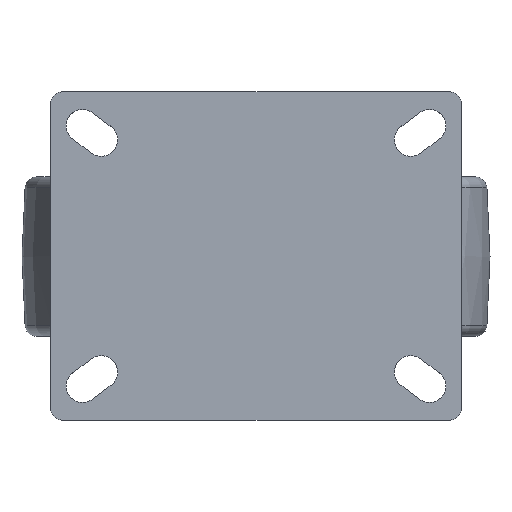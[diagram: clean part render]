
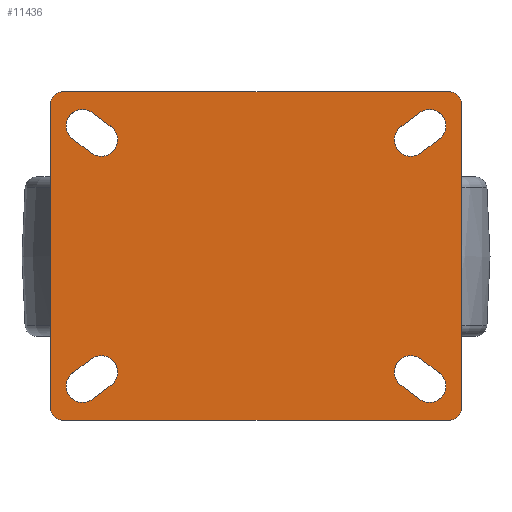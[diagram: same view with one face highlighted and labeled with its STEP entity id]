
A CAD part, top view. The second image highlights one B-rep face of the part: STEP entity #11436.
In plain terms, the highlighted planar face has unit normal (0, 0, 1).
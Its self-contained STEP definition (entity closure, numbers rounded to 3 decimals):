
#836=FACE_BOUND('',#2412,.T.);
#837=FACE_BOUND('',#2413,.T.);
#838=FACE_BOUND('',#2414,.T.);
#839=FACE_BOUND('',#2415,.T.);
#1127=PLANE('',#12036);
#1730=FACE_OUTER_BOUND('',#2411,.T.);
#2411=EDGE_LOOP('',(#10591,#10592,#10593,#10594,#10595,#10596,#10597,#10598));
#2412=EDGE_LOOP('',(#10599,#10600,#10601,#10602));
#2413=EDGE_LOOP('',(#10603,#10604,#10605,#10606));
#2414=EDGE_LOOP('',(#10607,#10608,#10609,#10610));
#2415=EDGE_LOOP('',(#10611,#10612,#10613,#10614));
#2622=CIRCLE('',#12002,7.);
#2623=CIRCLE('',#12005,7.);
#2624=CIRCLE('',#12008,7.);
#2625=CIRCLE('',#12011,7.);
#2626=CIRCLE('',#12014,7.);
#2627=CIRCLE('',#12017,7.);
#2628=CIRCLE('',#12020,7.);
#2629=CIRCLE('',#12023,7.);
#2630=CIRCLE('',#12025,5.);
#2631=CIRCLE('',#12028,5.);
#2632=CIRCLE('',#12031,5.);
#2633=CIRCLE('',#12034,5.);
#3572=LINE('',#19611,#4556);
#3575=LINE('',#19619,#4559);
#3578=LINE('',#19627,#4562);
#3581=LINE('',#19635,#4565);
#3584=LINE('',#19643,#4568);
#3587=LINE('',#19651,#4571);
#3590=LINE('',#19659,#4574);
#3593=LINE('',#19667,#4577);
#3597=LINE('',#19679,#4581);
#3600=LINE('',#19687,#4584);
#3603=LINE('',#19695,#4587);
#3606=LINE('',#19702,#4590);
#4556=VECTOR('',#14027,10.);
#4559=VECTOR('',#14036,10.);
#4562=VECTOR('',#14045,10.);
#4565=VECTOR('',#14054,10.);
#4568=VECTOR('',#14063,10.);
#4571=VECTOR('',#14072,10.);
#4574=VECTOR('',#14081,10.);
#4577=VECTOR('',#14090,10.);
#4581=VECTOR('',#14104,10.);
#4584=VECTOR('',#14113,10.);
#4587=VECTOR('',#14122,10.);
#4590=VECTOR('',#14131,10.);
#5675=VERTEX_POINT('',#19608);
#5676=VERTEX_POINT('',#19610);
#5677=VERTEX_POINT('',#19614);
#5678=VERTEX_POINT('',#19618);
#5679=VERTEX_POINT('',#19624);
#5680=VERTEX_POINT('',#19626);
#5681=VERTEX_POINT('',#19630);
#5682=VERTEX_POINT('',#19634);
#5683=VERTEX_POINT('',#19640);
#5684=VERTEX_POINT('',#19642);
#5685=VERTEX_POINT('',#19646);
#5686=VERTEX_POINT('',#19650);
#5687=VERTEX_POINT('',#19656);
#5688=VERTEX_POINT('',#19658);
#5689=VERTEX_POINT('',#19662);
#5690=VERTEX_POINT('',#19666);
#5691=VERTEX_POINT('',#19672);
#5692=VERTEX_POINT('',#19674);
#5693=VERTEX_POINT('',#19678);
#5694=VERTEX_POINT('',#19682);
#5695=VERTEX_POINT('',#19686);
#5696=VERTEX_POINT('',#19690);
#5697=VERTEX_POINT('',#19694);
#5698=VERTEX_POINT('',#19698);
#7302=EDGE_CURVE('',#5676,#5675,#3572,.T.);
#7304=EDGE_CURVE('',#5677,#5676,#2622,.T.);
#7306=EDGE_CURVE('',#5678,#5677,#3575,.T.);
#7308=EDGE_CURVE('',#5675,#5678,#2623,.T.);
#7310=EDGE_CURVE('',#5680,#5679,#3578,.T.);
#7312=EDGE_CURVE('',#5681,#5680,#2624,.T.);
#7314=EDGE_CURVE('',#5682,#5681,#3581,.T.);
#7316=EDGE_CURVE('',#5679,#5682,#2625,.T.);
#7318=EDGE_CURVE('',#5684,#5683,#3584,.T.);
#7320=EDGE_CURVE('',#5685,#5684,#2626,.T.);
#7322=EDGE_CURVE('',#5686,#5685,#3587,.T.);
#7324=EDGE_CURVE('',#5683,#5686,#2627,.T.);
#7326=EDGE_CURVE('',#5688,#5687,#3590,.T.);
#7328=EDGE_CURVE('',#5689,#5688,#2628,.T.);
#7330=EDGE_CURVE('',#5690,#5689,#3593,.T.);
#7332=EDGE_CURVE('',#5687,#5690,#2629,.T.);
#7334=EDGE_CURVE('',#5692,#5691,#2630,.T.);
#7336=EDGE_CURVE('',#5693,#5692,#3597,.T.);
#7338=EDGE_CURVE('',#5694,#5693,#2631,.T.);
#7340=EDGE_CURVE('',#5695,#5694,#3600,.T.);
#7342=EDGE_CURVE('',#5696,#5695,#2632,.T.);
#7344=EDGE_CURVE('',#5697,#5696,#3603,.T.);
#7346=EDGE_CURVE('',#5698,#5697,#2633,.T.);
#7348=EDGE_CURVE('',#5691,#5698,#3606,.T.);
#10591=ORIENTED_EDGE('',*,*,#7348,.T.);
#10592=ORIENTED_EDGE('',*,*,#7346,.T.);
#10593=ORIENTED_EDGE('',*,*,#7344,.T.);
#10594=ORIENTED_EDGE('',*,*,#7342,.T.);
#10595=ORIENTED_EDGE('',*,*,#7340,.T.);
#10596=ORIENTED_EDGE('',*,*,#7338,.T.);
#10597=ORIENTED_EDGE('',*,*,#7336,.T.);
#10598=ORIENTED_EDGE('',*,*,#7334,.T.);
#10599=ORIENTED_EDGE('',*,*,#7332,.T.);
#10600=ORIENTED_EDGE('',*,*,#7330,.T.);
#10601=ORIENTED_EDGE('',*,*,#7328,.T.);
#10602=ORIENTED_EDGE('',*,*,#7326,.T.);
#10603=ORIENTED_EDGE('',*,*,#7324,.T.);
#10604=ORIENTED_EDGE('',*,*,#7322,.T.);
#10605=ORIENTED_EDGE('',*,*,#7320,.T.);
#10606=ORIENTED_EDGE('',*,*,#7318,.T.);
#10607=ORIENTED_EDGE('',*,*,#7316,.T.);
#10608=ORIENTED_EDGE('',*,*,#7314,.T.);
#10609=ORIENTED_EDGE('',*,*,#7312,.T.);
#10610=ORIENTED_EDGE('',*,*,#7310,.T.);
#10611=ORIENTED_EDGE('',*,*,#7308,.T.);
#10612=ORIENTED_EDGE('',*,*,#7306,.T.);
#10613=ORIENTED_EDGE('',*,*,#7304,.T.);
#10614=ORIENTED_EDGE('',*,*,#7302,.T.);
#11436=ADVANCED_FACE('',(#1730,#836,#837,#838,#839),#1127,.T.);
#12002=AXIS2_PLACEMENT_3D('',#19615,#14031,#14032);
#12005=AXIS2_PLACEMENT_3D('',#19622,#14040,#14041);
#12008=AXIS2_PLACEMENT_3D('',#19631,#14049,#14050);
#12011=AXIS2_PLACEMENT_3D('',#19638,#14058,#14059);
#12014=AXIS2_PLACEMENT_3D('',#19647,#14067,#14068);
#12017=AXIS2_PLACEMENT_3D('',#19654,#14076,#14077);
#12020=AXIS2_PLACEMENT_3D('',#19663,#14085,#14086);
#12023=AXIS2_PLACEMENT_3D('',#19670,#14094,#14095);
#12025=AXIS2_PLACEMENT_3D('',#19675,#14099,#14100);
#12028=AXIS2_PLACEMENT_3D('',#19683,#14108,#14109);
#12031=AXIS2_PLACEMENT_3D('',#19691,#14117,#14118);
#12034=AXIS2_PLACEMENT_3D('',#19699,#14126,#14127);
#12036=AXIS2_PLACEMENT_3D('',#19703,#14132,#14133);
#14027=DIRECTION('',(0.8,-0.6,0.));
#14031=DIRECTION('center_axis',(0.,0.,-1.));
#14032=DIRECTION('ref_axis',(-0.6,-0.8,0.));
#14036=DIRECTION('',(-0.8,0.6,0.));
#14040=DIRECTION('center_axis',(0.,0.,-1.));
#14041=DIRECTION('ref_axis',(0.6,0.8,0.));
#14045=DIRECTION('',(-0.8,-0.6,0.));
#14049=DIRECTION('center_axis',(0.,0.,-1.));
#14050=DIRECTION('ref_axis',(-0.6,0.8,0.));
#14054=DIRECTION('',(0.8,0.6,0.));
#14058=DIRECTION('center_axis',(0.,0.,-1.));
#14059=DIRECTION('ref_axis',(0.6,-0.8,0.));
#14063=DIRECTION('',(-0.8,0.6,0.));
#14067=DIRECTION('center_axis',(0.,0.,-1.));
#14068=DIRECTION('ref_axis',(0.6,0.8,0.));
#14072=DIRECTION('',(0.8,-0.6,0.));
#14076=DIRECTION('center_axis',(0.,0.,-1.));
#14077=DIRECTION('ref_axis',(-0.6,-0.8,0.));
#14081=DIRECTION('',(-0.8,-0.6,0.));
#14085=DIRECTION('center_axis',(0.,0.,-1.));
#14086=DIRECTION('ref_axis',(-0.6,0.8,0.));
#14090=DIRECTION('',(0.8,0.6,0.));
#14094=DIRECTION('center_axis',(0.,0.,-1.));
#14095=DIRECTION('ref_axis',(0.6,-0.8,0.));
#14099=DIRECTION('center_axis',(0.,0.,1.));
#14100=DIRECTION('ref_axis',(-1.,0.,0.));
#14104=DIRECTION('',(0.,-1.,0.));
#14108=DIRECTION('center_axis',(0.,0.,1.));
#14109=DIRECTION('ref_axis',(0.,1.,0.));
#14113=DIRECTION('',(-1.,0.,0.));
#14117=DIRECTION('center_axis',(0.,0.,1.));
#14118=DIRECTION('ref_axis',(1.,0.,0.));
#14122=DIRECTION('',(0.,1.,0.));
#14126=DIRECTION('center_axis',(0.,0.,1.));
#14127=DIRECTION('ref_axis',(0.,-1.,0.));
#14131=DIRECTION('',(1.,0.,0.));
#14132=DIRECTION('center_axis',(0.,0.,1.));
#14133=DIRECTION('ref_axis',(1.,0.,0.));
#19608=CARTESIAN_POINT('',(78.2,-49.9,10.));
#19610=CARTESIAN_POINT('',(70.2,-43.9,10.));
#19611=CARTESIAN_POINT('',(70.2,-43.9,10.));
#19614=CARTESIAN_POINT('',(61.8,-55.1,10.));
#19615=CARTESIAN_POINT('Origin',(66.,-49.5,10.));
#19618=CARTESIAN_POINT('',(69.8,-61.1,10.));
#19619=CARTESIAN_POINT('',(69.8,-61.1,10.));
#19622=CARTESIAN_POINT('Origin',(74.,-55.5,10.));
#19624=CARTESIAN_POINT('',(70.2,43.9,10.));
#19626=CARTESIAN_POINT('',(78.2,49.9,10.));
#19627=CARTESIAN_POINT('',(78.2,49.9,10.));
#19630=CARTESIAN_POINT('',(69.8,61.1,10.));
#19631=CARTESIAN_POINT('Origin',(74.,55.5,10.));
#19634=CARTESIAN_POINT('',(61.8,55.1,10.));
#19635=CARTESIAN_POINT('',(61.8,55.1,10.));
#19638=CARTESIAN_POINT('Origin',(66.,49.5,10.));
#19640=CARTESIAN_POINT('',(-78.2,49.9,10.));
#19642=CARTESIAN_POINT('',(-70.2,43.9,10.));
#19643=CARTESIAN_POINT('',(-70.2,43.9,10.));
#19646=CARTESIAN_POINT('',(-61.8,55.1,10.));
#19647=CARTESIAN_POINT('Origin',(-66.,49.5,10.));
#19650=CARTESIAN_POINT('',(-69.8,61.1,10.));
#19651=CARTESIAN_POINT('',(-69.8,61.1,10.));
#19654=CARTESIAN_POINT('Origin',(-74.,55.5,10.));
#19656=CARTESIAN_POINT('',(-69.8,-61.1,10.));
#19658=CARTESIAN_POINT('',(-61.8,-55.1,10.));
#19659=CARTESIAN_POINT('',(-61.8,-55.1,10.));
#19662=CARTESIAN_POINT('',(-70.2,-43.9,10.));
#19663=CARTESIAN_POINT('Origin',(-66.,-49.5,10.));
#19666=CARTESIAN_POINT('',(-78.2,-49.9,10.));
#19667=CARTESIAN_POINT('',(-78.2,-49.9,10.));
#19670=CARTESIAN_POINT('Origin',(-74.,-55.5,10.));
#19672=CARTESIAN_POINT('',(-82.5,-70.,10.));
#19674=CARTESIAN_POINT('',(-87.5,-65.,10.));
#19675=CARTESIAN_POINT('Origin',(-82.5,-65.,10.));
#19678=CARTESIAN_POINT('',(-87.5,65.,10.));
#19679=CARTESIAN_POINT('',(-87.5,65.,10.));
#19682=CARTESIAN_POINT('',(-82.5,70.,10.));
#19683=CARTESIAN_POINT('Origin',(-82.5,65.,10.));
#19686=CARTESIAN_POINT('',(82.5,70.,10.));
#19687=CARTESIAN_POINT('',(82.5,70.,10.));
#19690=CARTESIAN_POINT('',(87.5,65.,10.));
#19691=CARTESIAN_POINT('Origin',(82.5,65.,10.));
#19694=CARTESIAN_POINT('',(87.5,-65.,10.));
#19695=CARTESIAN_POINT('',(87.5,-65.,10.));
#19698=CARTESIAN_POINT('',(82.5,-70.,10.));
#19699=CARTESIAN_POINT('Origin',(82.5,-65.,10.));
#19702=CARTESIAN_POINT('',(-82.5,-70.,10.));
#19703=CARTESIAN_POINT('Origin',(0.,0.,
10.));
